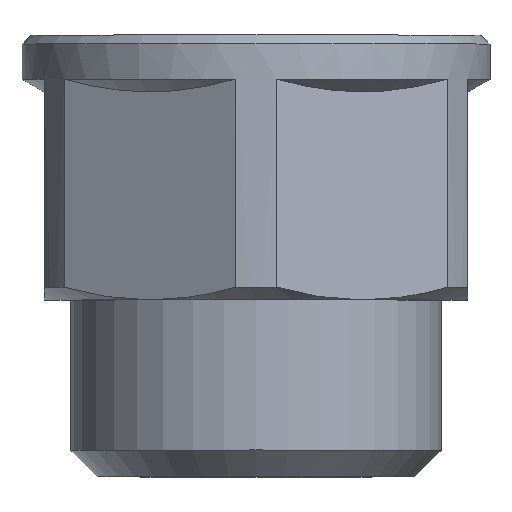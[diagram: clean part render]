
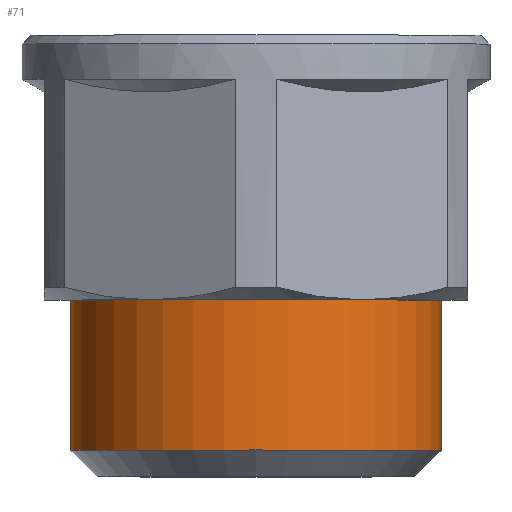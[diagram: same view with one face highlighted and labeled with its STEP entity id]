
A CAD part, top view. The second image highlights one B-rep face of the part: STEP entity #71.
In plain terms, the highlighted cylindrical face has radius 10.477 mm (diameter 20.955 mm), a full revolution.
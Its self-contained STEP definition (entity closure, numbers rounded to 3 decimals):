
#71=ADVANCED_FACE('',(#282,#284),#286,.T.);
#282=FACE_OUTER_BOUND('',#283,.T.);
#283=EDGE_LOOP('',(#427));
#284=FACE_OUTER_BOUND('',#285,.T.);
#285=EDGE_LOOP('',(#428));
#286=CYLINDRICAL_SURFACE('',#287,10.478);
#287=AXIS2_PLACEMENT_3D('',#288,#289,#290);
#288=CARTESIAN_POINT('',(0.,0.,0.));
#289=DIRECTION('',(0.,-1.,0.));
#290=DIRECTION('',(0.,0.,1.));
#427=ORIENTED_EDGE('',*,*,#500,.T.);
#428=ORIENTED_EDGE('',*,*,#475,.F.);
#475=EDGE_CURVE('',#571,#571,#572,.T.);
#500=EDGE_CURVE('',#605,#605,#606,.T.);
#571=VERTEX_POINT('',#770);
#572=CIRCLE('',#771,10.478);
#605=VERTEX_POINT('',#1361);
#606=CIRCLE('',#1362,10.478);
#770=CARTESIAN_POINT('',(0.,-8.5,10.478));
#771=AXIS2_PLACEMENT_3D('',#772,#773,#774);
#772=CARTESIAN_POINT('',(0.,-8.5,0.));
#773=DIRECTION('',(0.,-1.,0.));
#774=DIRECTION('',(0.,0.,1.));
#1361=CARTESIAN_POINT('',(0.,0.,10.478));
#1362=AXIS2_PLACEMENT_3D('',#1363,#1364,#1365);
#1363=CARTESIAN_POINT('',(0.,0.,0.));
#1364=DIRECTION('',(0.,-1.,0.));
#1365=DIRECTION('',(0.,0.,1.));
